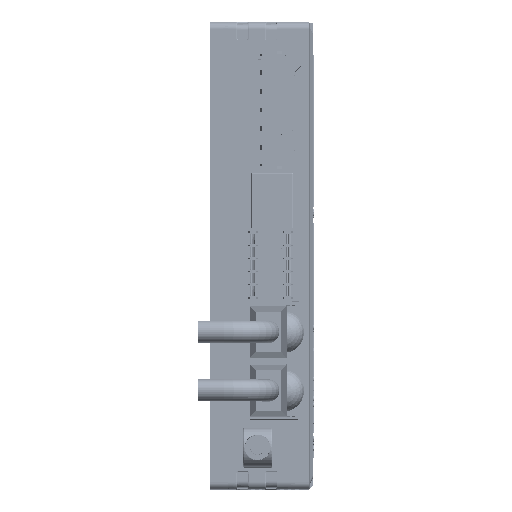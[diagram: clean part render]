
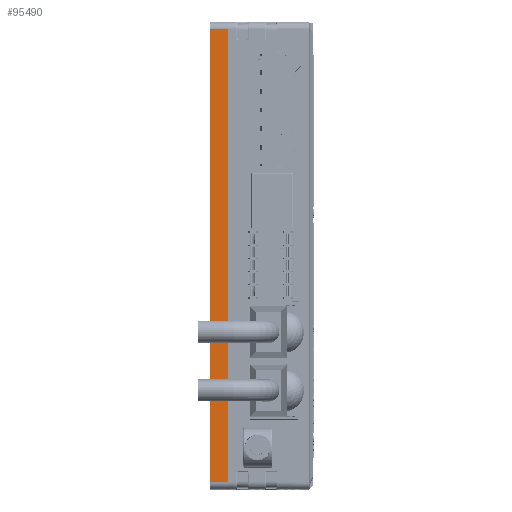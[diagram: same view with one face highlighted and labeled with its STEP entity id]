
A CAD part, top view. The second image highlights one B-rep face of the part: STEP entity #95490.
In plain terms, the highlighted planar face has unit normal (0, 0, 1).
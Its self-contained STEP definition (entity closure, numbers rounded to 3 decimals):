
#95274=CARTESIAN_POINT('Line Origine',(-0.7,60.,89.545)) ;
#95278=CARTESIAN_POINT('Vertex',(-0.7,-1.4,89.545)) ;
#95280=CARTESIAN_POINT('Vertex',(-0.7,121.4,89.545)) ;
#95460=CARTESIAN_POINT('Axis2P3D Location',(24.497,134.763,89.545)) ;
#95465=CARTESIAN_POINT('Line Origine',(-5.7,60.,89.545)) ;
#95469=CARTESIAN_POINT('Vertex',(-5.7,121.4,89.545)) ;
#95471=CARTESIAN_POINT('Vertex',(-5.7,-1.4,89.545)) ;
#95474=CARTESIAN_POINT('Line Origine',(-3.2,-1.4,89.545)) ;
#95479=CARTESIAN_POINT('Line Origine',(-3.2,121.4,89.545)) ;
#95275=DIRECTION('Vector Direction',(0.,1.,0.)) ;
#95461=DIRECTION('Axis2P3D Direction',(0.,0.,1.)) ;
#95462=DIRECTION('Axis2P3D XDirection',(1.,0.,0.)) ;
#95466=DIRECTION('Vector Direction',(0.,-1.,0.)) ;
#95475=DIRECTION('Vector Direction',(1.,0.,0.)) ;
#95480=DIRECTION('Vector Direction',(-1.,0.,0.)) ;
#95463=AXIS2_PLACEMENT_3D('Plane Axis2P3D',#95460,#95461,#95462) ;
#95485=ORIENTED_EDGE('',*,*,#95473,.T.) ;
#95486=ORIENTED_EDGE('',*,*,#95478,.T.) ;
#95487=ORIENTED_EDGE('',*,*,#95282,.T.) ;
#95488=ORIENTED_EDGE('',*,*,#95483,.T.) ;
#95276=VECTOR('Line Direction',#95275,1.) ;
#95467=VECTOR('Line Direction',#95466,1.) ;
#95476=VECTOR('Line Direction',#95475,1.) ;
#95481=VECTOR('Line Direction',#95480,1.) ;
#95490=ADVANCED_FACE('MANIFOLD_SOLID_BREP #14725',(#95489),#95464,.T.) ;
#95282=EDGE_CURVE('',#95279,#95281,#95277,.T.) ;
#95473=EDGE_CURVE('',#95470,#95472,#95468,.T.) ;
#95478=EDGE_CURVE('',#95472,#95279,#95477,.T.) ;
#95483=EDGE_CURVE('',#95281,#95470,#95482,.T.) ;
#95484=EDGE_LOOP('',(#95485,#95486,#95487,#95488)) ;
#95489=FACE_OUTER_BOUND('',#95484,.T.) ;
#95277=LINE('Line',#95274,#95276) ;
#95468=LINE('Line',#95465,#95467) ;
#95477=LINE('Line',#95474,#95476) ;
#95482=LINE('Line',#95479,#95481) ;
#95464=PLANE('',#95463) ;
#95279=VERTEX_POINT('',#95278) ;
#95281=VERTEX_POINT('',#95280) ;
#95470=VERTEX_POINT('',#95469) ;
#95472=VERTEX_POINT('',#95471) ;
